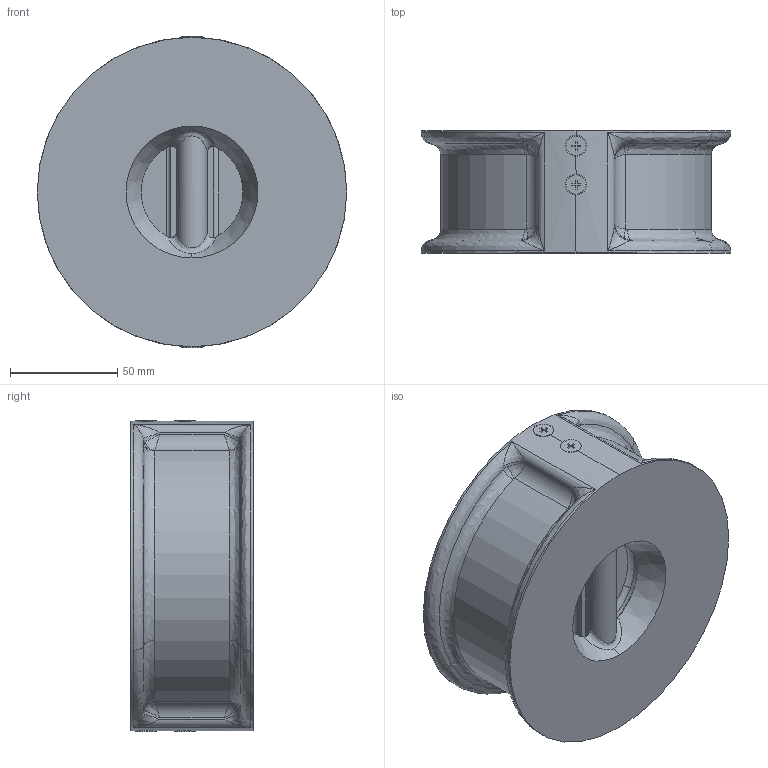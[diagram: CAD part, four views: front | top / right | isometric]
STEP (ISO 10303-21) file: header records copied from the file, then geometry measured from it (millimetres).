
FILE_DESCRIPTION (( 'STEP AP203' ), '1' );
FILE_NAME ('00.STEP', '2017-04-02T08:47:03', ( 'User' ), ( 'shendu' ), 'SwSTEP 2.0', 'SolidWorks 2015', '' );
FILE_SCHEMA (( 'CONFIG_CONTROL_DESIGN' ));
Length unit declared in the file: millimetre
Products named in the file (1): 00
Bounding box: 144 x 57 x 144.97 mm (x, y, z)
Volume: 545056.5 mm3; surface area: 110390.2 mm2
Topology: 15 solids, 15 shells, 457 faces, 1114 edges, 646 vertices
Faces by surface type: bspline 150, cylinder 143, plane 120, cone 44
Entity records: 59402 total; most frequent: CARTESIAN_POINT 49701, ORIENTED_EDGE 2162, DIRECTION 1738, EDGE_CURVE 1081, AXIS2_PLACEMENT_3D 649, VERTEX_POINT 646, EDGE_LOOP 481, ADVANCED_FACE 457
